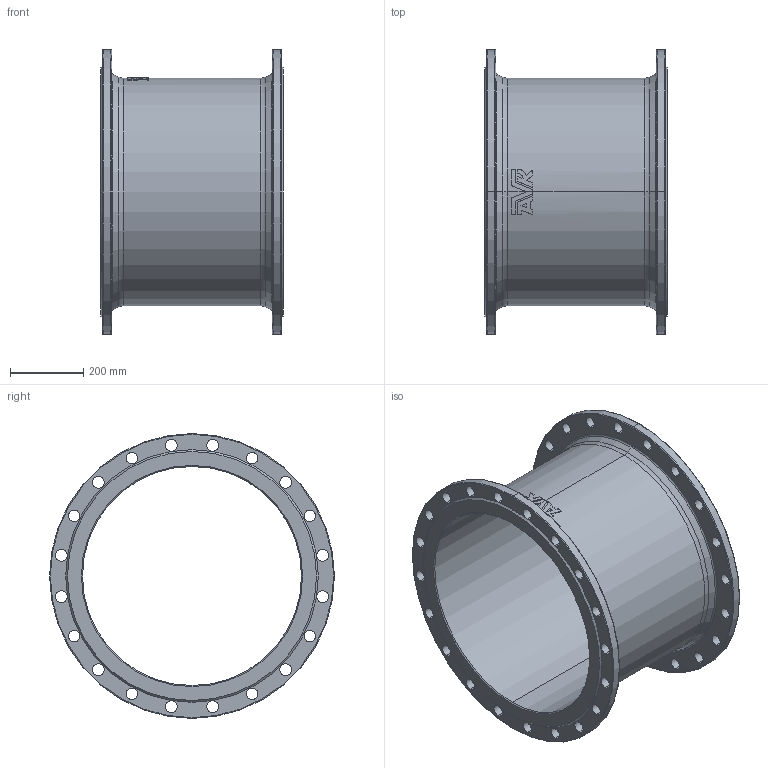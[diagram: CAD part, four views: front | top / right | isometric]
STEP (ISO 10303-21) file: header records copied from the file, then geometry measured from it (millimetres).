
FILE_DESCRIPTION (( 'STEP AP203' ), '1' );
FILE_NAME ('O_712_4810_DN600_0X_REV01.step', '2021-12-02T08:10:29', ( '' ), ( '' ), 'SwSTEP 2.0', 'SolidWorks 2019', '' );
FILE_SCHEMA (( 'CONFIG_CONTROL_DESIGN' ));
Length unit declared in the file: millimetre
Products named in the file (1): O_712_4810_DN600_0X_REV01
Bounding box: 500 x 780 x 780 mm (x, y, z)
Volume: 20596226.7 mm3; surface area: 2654214.1 mm2
Topology: 1 solids, 1 shells, 164 faces, 439 edges, 284 vertices
Faces by surface type: cylinder 93, plane 26, bspline 17, torus 16, cone 12
Entity records: 6232 total; most frequent: CARTESIAN_POINT 1765, DIRECTION 959, ORIENTED_EDGE 878, EDGE_CURVE 439, AXIS2_PLACEMENT_3D 406, VERTEX_POINT 284, CIRCLE 258, EDGE_LOOP 253
